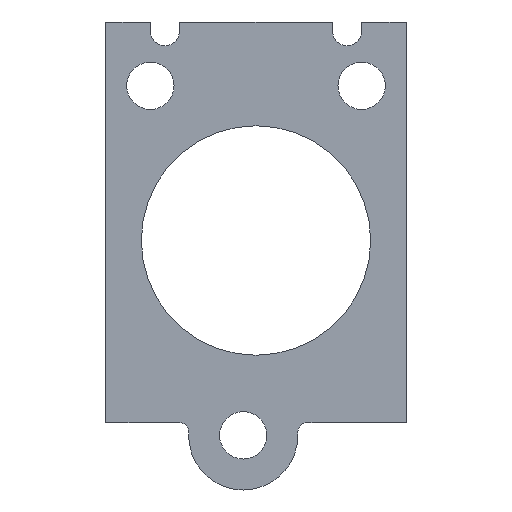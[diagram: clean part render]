
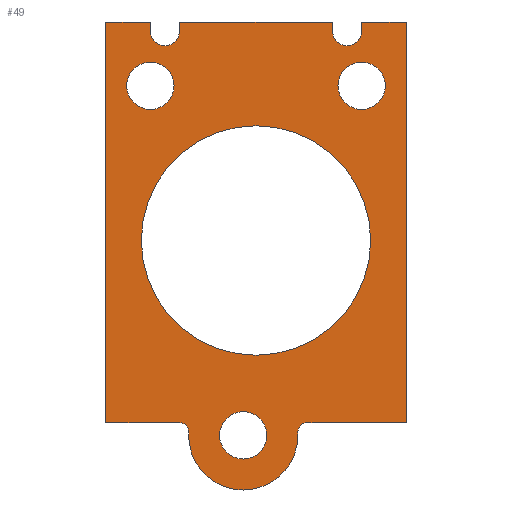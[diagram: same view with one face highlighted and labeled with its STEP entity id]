
A CAD part, front view. The second image highlights one B-rep face of the part: STEP entity #49.
In plain terms, the highlighted planar face has unit normal (0, -1, 0).
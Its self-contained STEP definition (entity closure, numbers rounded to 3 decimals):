
#49=ADVANCED_FACE('',(#107,#108,#109,#110,#78),#314,.T.);
#78=FACE_OUTER_BOUND('',#119,.F.);
#107=FACE_BOUND('',#115,.F.);
#108=FACE_BOUND('',#116,.F.);
#109=FACE_BOUND('',#117,.F.);
#110=FACE_BOUND('',#118,.F.);
#115=EDGE_LOOP('',(#152,#153));
#116=EDGE_LOOP('',(#154,#155));
#117=EDGE_LOOP('',(#156,#157));
#118=EDGE_LOOP('',(#158,#159));
#119=EDGE_LOOP('',(#160,#161,#162,#163,#164,#165,#166,#167,#168,#169,#170,
#171,#172,#173,#174,#175,#176,#177,#178));
#152=ORIENTED_EDGE('',*,*,#498,.T.);
#153=ORIENTED_EDGE('',*,*,#496,.T.);
#154=ORIENTED_EDGE('',*,*,#506,.T.);
#155=ORIENTED_EDGE('',*,*,#504,.T.);
#156=ORIENTED_EDGE('',*,*,#502,.T.);
#157=ORIENTED_EDGE('',*,*,#500,.T.);
#158=ORIENTED_EDGE('',*,*,#494,.T.);
#159=ORIENTED_EDGE('',*,*,#492,.T.);
#160=ORIENTED_EDGE('',*,*,#508,.F.);
#161=ORIENTED_EDGE('',*,*,#509,.T.);
#162=ORIENTED_EDGE('',*,*,#510,.F.);
#163=ORIENTED_EDGE('',*,*,#511,.F.);
#164=ORIENTED_EDGE('',*,*,#512,.F.);
#165=ORIENTED_EDGE('',*,*,#513,.T.);
#166=ORIENTED_EDGE('',*,*,#514,.F.);
#167=ORIENTED_EDGE('',*,*,#515,.F.);
#168=ORIENTED_EDGE('',*,*,#516,.F.);
#169=ORIENTED_EDGE('',*,*,#517,.F.);
#170=ORIENTED_EDGE('',*,*,#518,.T.);
#171=ORIENTED_EDGE('',*,*,#519,.F.);
#172=ORIENTED_EDGE('',*,*,#520,.F.);
#173=ORIENTED_EDGE('',*,*,#521,.F.);
#174=ORIENTED_EDGE('',*,*,#522,.F.);
#175=ORIENTED_EDGE('',*,*,#523,.T.);
#176=ORIENTED_EDGE('',*,*,#524,.F.);
#177=ORIENTED_EDGE('',*,*,#525,.F.);
#178=ORIENTED_EDGE('',*,*,#526,.F.);
#314=PLANE('',#685);
#386=LINE('',#957,#439);
#387=LINE('',#959,#440);
#388=LINE('',#960,#441);
#389=LINE('',#961,#442);
#390=LINE('',#963,#443);
#391=LINE('',#964,#444);
#392=LINE('',#965,#445);
#393=LINE('',#966,#446);
#394=LINE('',#968,#447);
#395=LINE('',#971,#448);
#396=LINE('',#973,#449);
#397=LINE('',#974,#450);
#398=LINE('',#975,#451);
#439=VECTOR('',#749,0.5);
#440=VECTOR('',#752,0.5);
#441=VECTOR('',#753,8.4);
#442=VECTOR('',#754,0.5);
#443=VECTOR('',#757,0.5);
#444=VECTOR('',#758,2.45);
#445=VECTOR('',#759,22.);
#446=VECTOR('',#760,5.45);
#447=VECTOR('',#763,0.2);
#448=VECTOR('',#768,0.2);
#449=VECTOR('',#771,4.05);
#450=VECTOR('',#772,22.);
#451=VECTOR('',#773,2.45);
#492=EDGE_CURVE('',#654,#653,#573,.T.);
#494=EDGE_CURVE('',#653,#654,#575,.T.);
#496=EDGE_CURVE('',#650,#649,#577,.T.);
#498=EDGE_CURVE('',#649,#650,#579,.T.);
#500=EDGE_CURVE('',#646,#645,#581,.T.);
#502=EDGE_CURVE('',#645,#646,#583,.T.);
#504=EDGE_CURVE('',#642,#641,#585,.T.);
#506=EDGE_CURVE('',#641,#642,#587,.T.);
#508=EDGE_CURVE('',#638,#637,#386,.T.);
#509=EDGE_CURVE('',#638,#636,#589,.T.);
#510=EDGE_CURVE('',#635,#636,#387,.T.);
#511=EDGE_CURVE('',#634,#635,#388,.T.);
#512=EDGE_CURVE('',#633,#634,#389,.T.);
#513=EDGE_CURVE('',#633,#632,#590,.T.);
#514=EDGE_CURVE('',#631,#632,#390,.T.);
#515=EDGE_CURVE('',#630,#631,#391,.T.);
#516=EDGE_CURVE('',#629,#630,#392,.T.);
#517=EDGE_CURVE('',#628,#629,#393,.T.);
#518=EDGE_CURVE('',#628,#627,#591,.T.);
#519=EDGE_CURVE('',#626,#627,#394,.T.);
#520=EDGE_CURVE('',#625,#626,#592,.T.);
#521=EDGE_CURVE('',#624,#625,#593,.T.);
#522=EDGE_CURVE('',#623,#624,#395,.T.);
#523=EDGE_CURVE('',#623,#622,#594,.T.);
#524=EDGE_CURVE('',#621,#622,#396,.T.);
#525=EDGE_CURVE('',#620,#621,#397,.T.);
#526=EDGE_CURVE('',#637,#620,#398,.T.);
#573=CIRCLE('',#657,1.3);
#575=CIRCLE('',#659,1.3);
#577=CIRCLE('',#661,1.3);
#579=CIRCLE('',#663,1.3);
#581=CIRCLE('',#665,1.3);
#583=CIRCLE('',#667,1.3);
#585=CIRCLE('',#669,6.3);
#587=CIRCLE('',#671,6.3);
#589=CIRCLE('',#673,0.8);
#590=CIRCLE('',#674,0.8);
#591=CIRCLE('',#675,0.5);
#592=CIRCLE('',#676,3.);
#593=CIRCLE('',#677,3.);
#594=CIRCLE('',#678,0.5);
#620=VERTEX_POINT('',#906);
#621=VERTEX_POINT('',#907);
#622=VERTEX_POINT('',#908);
#623=VERTEX_POINT('',#909);
#624=VERTEX_POINT('',#910);
#625=VERTEX_POINT('',#911);
#626=VERTEX_POINT('',#912);
#627=VERTEX_POINT('',#913);
#628=VERTEX_POINT('',#914);
#629=VERTEX_POINT('',#915);
#630=VERTEX_POINT('',#916);
#631=VERTEX_POINT('',#917);
#632=VERTEX_POINT('',#918);
#633=VERTEX_POINT('',#919);
#634=VERTEX_POINT('',#920);
#635=VERTEX_POINT('',#921);
#636=VERTEX_POINT('',#922);
#637=VERTEX_POINT('',#923);
#638=VERTEX_POINT('',#924);
#641=VERTEX_POINT('',#927);
#642=VERTEX_POINT('',#928);
#645=VERTEX_POINT('',#931);
#646=VERTEX_POINT('',#932);
#649=VERTEX_POINT('',#935);
#650=VERTEX_POINT('',#936);
#653=VERTEX_POINT('',#939);
#654=VERTEX_POINT('',#940);
#657=AXIS2_PLACEMENT_3D('',#941,#717,#718);
#659=AXIS2_PLACEMENT_3D('',#943,#721,#722);
#661=AXIS2_PLACEMENT_3D('',#945,#725,#726);
#663=AXIS2_PLACEMENT_3D('',#947,#729,#730);
#665=AXIS2_PLACEMENT_3D('',#949,#733,#734);
#667=AXIS2_PLACEMENT_3D('',#951,#737,#738);
#669=AXIS2_PLACEMENT_3D('',#953,#741,#742);
#671=AXIS2_PLACEMENT_3D('',#955,#745,#746);
#673=AXIS2_PLACEMENT_3D('',#958,#750,#751);
#674=AXIS2_PLACEMENT_3D('',#962,#755,#756);
#675=AXIS2_PLACEMENT_3D('',#967,#761,#762);
#676=AXIS2_PLACEMENT_3D('',#969,#764,#765);
#677=AXIS2_PLACEMENT_3D('',#970,#766,#767);
#678=AXIS2_PLACEMENT_3D('',#972,#769,#770);
#685=AXIS2_PLACEMENT_3D('',#1022,#826,#827);
#717=DIRECTION('',(0.,-1.,0.));
#718=DIRECTION('',(1.,0.,0.));
#721=DIRECTION('',(0.,-1.,0.));
#722=DIRECTION('',(-1.,0.,0.));
#725=DIRECTION('',(0.,-1.,0.));
#726=DIRECTION('',(1.,0.,0.));
#729=DIRECTION('',(0.,-1.,0.));
#730=DIRECTION('',(-1.,0.,0.));
#733=DIRECTION('',(0.,-1.,0.));
#734=DIRECTION('',(1.,0.,0.));
#737=DIRECTION('',(0.,-1.,0.));
#738=DIRECTION('',(-1.,0.,0.));
#741=DIRECTION('',(0.,-1.,0.));
#742=DIRECTION('',(1.,0.,0.));
#745=DIRECTION('',(0.,-1.,0.));
#746=DIRECTION('',(-1.,0.,0.));
#749=DIRECTION('',(0.,0.,1.));
#750=DIRECTION('',(0.,-1.,0.));
#751=DIRECTION('',(-1.,0.,0.));
#752=DIRECTION('',(0.,0.,-1.));
#753=DIRECTION('',(-1.,0.,0.));
#754=DIRECTION('',(0.,0.,1.));
#755=DIRECTION('',(0.,-1.,0.));
#756=DIRECTION('',(-1.,0.,0.));
#757=DIRECTION('',(0.,0.,-1.));
#758=DIRECTION('',(-1.,0.,0.));
#759=DIRECTION('',(0.,0.,1.));
#760=DIRECTION('',(1.,0.,0.));
#761=DIRECTION('',(0.,-1.,0.));
#762=DIRECTION('',(0.,0.,1.));
#763=DIRECTION('',(0.,0.,1.));
#764=DIRECTION('',(0.,-1.,0.));
#765=DIRECTION('',(0.,0.,-1.));
#766=DIRECTION('',(0.,-1.,0.));
#767=DIRECTION('',(-1.,0.,0.));
#768=DIRECTION('',(0.,0.,-1.));
#769=DIRECTION('',(0.,-1.,0.));
#770=DIRECTION('',(1.,0.,0.));
#771=DIRECTION('',(1.,0.,0.));
#772=DIRECTION('',(0.,0.,-1.));
#773=DIRECTION('',(-1.,0.,0.));
#826=DIRECTION('',(0.,-1.,0.));
#827=DIRECTION('',(1.,0.,0.));
#906=CARTESIAN_POINT('',(191.75,10.725,322.275));
#907=CARTESIAN_POINT('',(191.75,10.725,300.275));
#908=CARTESIAN_POINT('',(195.8,10.725,300.275));
#909=CARTESIAN_POINT('',(196.3,10.725,299.775));
#910=CARTESIAN_POINT('',(196.3,10.725,299.575));
#911=CARTESIAN_POINT('',(199.3,10.725,296.575));
#912=CARTESIAN_POINT('',(202.3,10.725,299.575));
#913=CARTESIAN_POINT('',(202.3,10.725,299.775));
#914=CARTESIAN_POINT('',(202.8,10.725,300.275));
#915=CARTESIAN_POINT('',(208.25,10.725,300.275));
#916=CARTESIAN_POINT('',(208.25,10.725,322.275));
#917=CARTESIAN_POINT('',(205.8,10.725,322.275));
#918=CARTESIAN_POINT('',(205.8,10.725,321.775));
#919=CARTESIAN_POINT('',(204.2,10.725,321.775));
#920=CARTESIAN_POINT('',(204.2,10.725,322.275));
#921=CARTESIAN_POINT('',(195.8,10.725,322.275));
#922=CARTESIAN_POINT('',(195.8,10.725,321.775));
#923=CARTESIAN_POINT('',(194.2,10.725,322.275));
#924=CARTESIAN_POINT('',(194.2,10.725,321.775));
#927=CARTESIAN_POINT('',(193.7,10.725,310.275));
#928=CARTESIAN_POINT('',(206.3,10.725,310.275));
#931=CARTESIAN_POINT('',(192.9,10.725,318.775));
#932=CARTESIAN_POINT('',(195.5,10.725,318.775));
#935=CARTESIAN_POINT('',(204.5,10.725,318.775));
#936=CARTESIAN_POINT('',(207.1,10.725,318.775));
#939=CARTESIAN_POINT('',(198.,10.725,299.575));
#940=CARTESIAN_POINT('',(200.6,10.725,299.575));
#941=CARTESIAN_POINT('',(199.3,10.725,299.575));
#943=CARTESIAN_POINT('',(199.3,10.725,299.575));
#945=CARTESIAN_POINT('',(205.8,10.725,318.775));
#947=CARTESIAN_POINT('',(205.8,10.725,318.775));
#949=CARTESIAN_POINT('',(194.2,10.725,318.775));
#951=CARTESIAN_POINT('',(194.2,10.725,318.775));
#953=CARTESIAN_POINT('',(200.,10.725,310.275));
#955=CARTESIAN_POINT('',(200.,10.725,310.275));
#957=CARTESIAN_POINT('',(194.2,10.725,321.775));
#958=CARTESIAN_POINT('',(195.,10.725,321.775));
#959=CARTESIAN_POINT('',(195.8,10.725,322.275));
#960=CARTESIAN_POINT('',(204.2,10.725,322.275));
#961=CARTESIAN_POINT('',(204.2,10.725,321.775));
#962=CARTESIAN_POINT('',(205.,10.725,321.775));
#963=CARTESIAN_POINT('',(205.8,10.725,322.275));
#964=CARTESIAN_POINT('',(208.25,10.725,322.275));
#965=CARTESIAN_POINT('',(208.25,10.725,300.275));
#966=CARTESIAN_POINT('',(202.8,10.725,300.275));
#967=CARTESIAN_POINT('',(202.8,10.725,299.775));
#968=CARTESIAN_POINT('',(202.3,10.725,299.575));
#969=CARTESIAN_POINT('',(199.3,10.725,299.575));
#970=CARTESIAN_POINT('',(199.3,10.725,299.575));
#971=CARTESIAN_POINT('',(196.3,10.725,299.775));
#972=CARTESIAN_POINT('',(195.8,10.725,299.775));
#973=CARTESIAN_POINT('',(191.75,10.725,300.275));
#974=CARTESIAN_POINT('',(191.75,10.725,322.275));
#975=CARTESIAN_POINT('',(194.2,10.725,322.275));
#1022=CARTESIAN_POINT('',(191.493,10.725,296.314));
